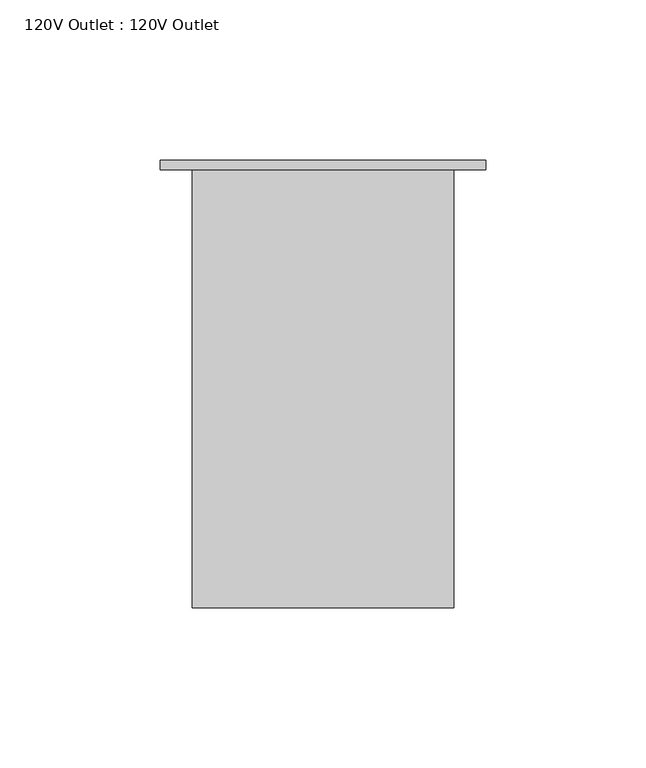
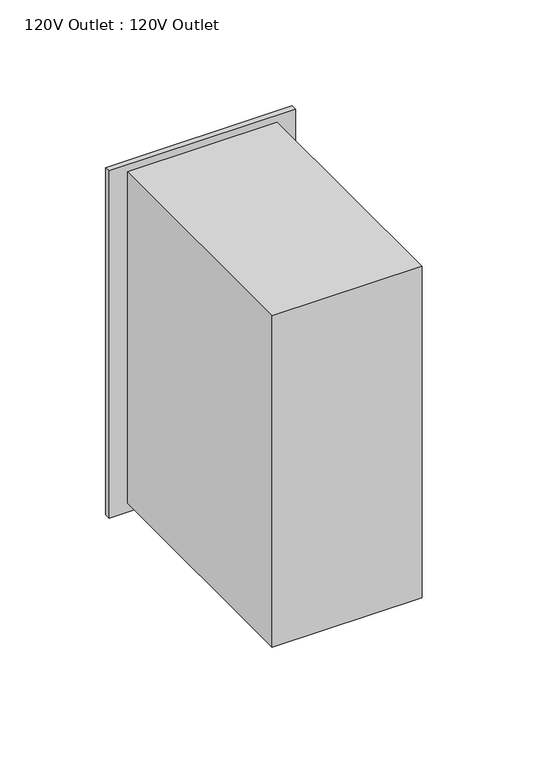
"""IFC4 building model written with IfcOpenShell, lengths in millimetres: proxy geometry, 120V Outlet : 120V Outlet."""

from ifc_helpers import new_model, si_unit, point, frame, frame_2d, origin, place, context, project, spatial, polyline, circle_curve, trimmed, segment, composite_curve, outline, extrude, source, transform, mapped, element, save


def proxy_120v_outlet_120v_outlet_fd853791(model_context):
    return source(origin(), model_context, "Body", "SweptSolid", [
        extrude(outline(polyline([(40.8, 36.8815331), (-40.8, 36.8815331), (-40.8, 173.6), (40.8, 173.6), (40.8, 36.8815331)])), frame((0.0, 0.0, 1887.0755609), z_axis=(0.0, 0.0, 1.0), x_axis=(1.0, 0.0, 0.0)), (0.0, 0.0, 1.0), 190.9390479),
        extrude(outline(polyline([(2082.0755609, -50.8), (1882.0755609, -50.8), (1882.0755609, 50.8), (2082.0755609, 50.8), (2082.0755609, -50.8)]), holes=[polyline([(2036.2177863, 19.9845665), (2036.2177863, 24.9845665), (2016.2177863, 24.9845665), (2016.2177863, 19.9845665), (2036.2177863, 19.9845665)]), polyline([(2036.2177863, -22.7879151), (2036.2177863, -17.6387853), (2016.2177863, -17.6387853), (2016.2177863, -22.7879151), (2036.2177863, -22.7879151)]), composite_curve([segment(trimmed(circle_curve(frame_2d((2059.9609957, 0.0)), 6.8655063), [point((2059.9609957, 6.8655063))], [point((2059.9609957, -6.8655063))], True, "CARTESIAN"), True, "CONTINUOUS"), segment(trimmed(circle_curve(frame_2d((2059.9609957, 0.0)), 6.8655063), [point((2059.9609957, -6.8655063))], [point((2059.9609957, 6.8655063))], True, "CARTESIAN"), True, "CONTINUOUS")], self_intersect=False), polyline([(1936.2177863, 19.9845665), (1936.2177863, 24.9845665), (1916.2177863, 24.9845665), (1916.2177863, 19.9845665), (1936.2177863, 19.9845665)]), polyline([(1936.2177863, -22.7879151), (1936.2177863, -17.6387853), (1916.2177863, -17.6387853), (1916.2177863, -22.7879151), (1936.2177863, -22.7879151)]), composite_curve([segment(trimmed(circle_curve(frame_2d((1959.9609957, 0.0)), 6.8655063), [point((1959.9609957, 6.8655063))], [point((1959.9609957, -6.8655063))], True, "CARTESIAN"), True, "CONTINUOUS"), segment(trimmed(circle_curve(frame_2d((1959.9609957, 0.0)), 6.8655063), [point((1959.9609957, -6.8655063))], [point((1959.9609957, 6.8655063))], True, "CARTESIAN"), True, "CONTINUOUS")], self_intersect=False)]), frame((0.0, 173.6, 0.0), z_axis=(0.0, 1.0, 0.0), x_axis=(0.0, 0.0, 1.0)), (0.0, 0.0, 1.0), 3.0),
    ])


if __name__ == "__main__":
    model = new_model("IFC4")
    model_context = context("Model", 3, world=origin())
    ifc_project = project(units=[si_unit("LENGTHUNIT", "METRE", prefix="MILLI")], contexts=[model_context])
    site = spatial("IfcSite", under=ifc_project)
    building = spatial("IfcBuilding", under=site)
    placement = place(None, origin())
    proxy_120v_outlet_120v_outlet_shape = proxy_120v_outlet_120v_outlet_fd853791(model_context)
    element("IfcBuildingElementProxy", 1, Name="120V Outlet : 120V Outlet", ObjectType="120V Outlet : 120V Outlet", at=placement, inside=building, context=model_context, shape_type="MappedRepresentation", body=[
        mapped(proxy_120v_outlet_120v_outlet_shape, transform((0.0, 0.0, 0.0), x_axis=(1.0, 0.0, 0.0), y_axis=(0.0, 1.0, 0.0), z_axis=(0.0, 0.0, 1.0))),
    ])
    save(model, "model.ifc")
